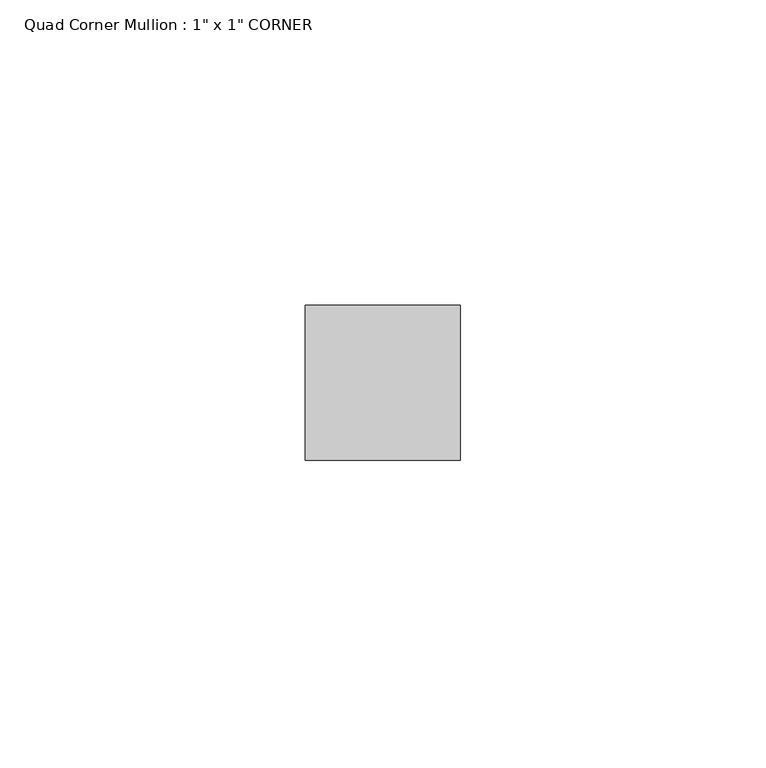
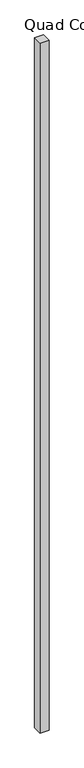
"""IFC4 building model written with IfcOpenShell, lengths in millimetres: member geometry."""

import ifcopenshell
import ifcopenshell.guid

model = None  # the IFC model being written
_history = None  # IfcOwnerHistory: only IFC2X3 demands one
_inside = {}  # id of a spatial element -> (the spatial element, [elements in it])
_under = {}  # id of a project, library or spatial element -> (it, [spatial elements below it])
_declared = {}  # id of a project -> (the project, [libraries it declares])
_typed = {}  # id of a type object -> (the type object, [elements of that type])
_made_of = {}  # id of a material, layer set ... -> (it, [elements and type objects made of it])


def new_model(schema):
    """Start an empty IFC model of exactly this schema.

    Asked for "IFC4X3", IfcOpenShell would pick the latest addendum, in which some entities
    have other attributes; the version numbers below select the first issue.
    IFC2X3 requires an IfcOwnerHistory on every rooted entity: one is made here for all.
    """
    global model, _history
    if schema == "IFC4X3":
        model = ifcopenshell.file(schema_version=(4, 3, 0, 0))
    else:
        model = ifcopenshell.file(schema=schema)
    _inside.clear()
    _under.clear()
    _declared.clear()
    _typed.clear()
    _made_of.clear()
    _history = None
    if model.schema == "IFC2X3":
        org = make("IfcOrganization", Name="unknown")
        user = make(
            "IfcPersonAndOrganization",
            ThePerson=make("IfcPerson", FamilyName="unknown"),
            TheOrganization=org,
        )
        app = make(
            "IfcApplication",
            ApplicationDeveloper=org,
            Version="unknown",
            ApplicationFullName="unknown",
            ApplicationIdentifier="unknown",
        )
        _history = make(
            "IfcOwnerHistory",
            OwningUser=user,
            OwningApplication=app,
            ChangeAction="ADDED",
            CreationDate=0,
        )
    return model


def make(cls, **values):
    """One entity of the class cls with the attributes given. An attribute that is None is left unset."""
    return model.create_entity(
        cls, **{name: value for name, value in values.items() if value is not None}
    )


def rooted(cls, **values):
    """An entity with a GlobalId (a new one), such as an element, a storey or a relation."""
    return make(cls, GlobalId=ifcopenshell.guid.new(), OwnerHistory=_history, **values)


def si_unit(unit_type, name, prefix=None):
    """IfcSIUnit, for example si_unit("LENGTHUNIT", "METRE", prefix="MILLI")."""
    return make("IfcSIUnit", UnitType=unit_type, Prefix=prefix, Name=name)


def assignment(units):
    """IfcUnitAssignment: the units of a project."""
    return None if units is None else make("IfcUnitAssignment", Units=units)


def point(xyz):
    """IfcCartesianPoint."""
    return None if xyz is None else make("IfcCartesianPoint", Coordinates=xyz)


def direction(xyz):
    """IfcDirection."""
    return None if xyz is None else make("IfcDirection", DirectionRatios=xyz)


def frame(location, z_axis=None, x_axis=None):
    """IfcAxis2Placement3D, a coordinate frame: its origin and axes. An axis left out is left unset."""
    return make(
        "IfcAxis2Placement3D",
        Location=point(location),
        Axis=direction(z_axis),
        RefDirection=direction(x_axis),
    )


def origin():
    """The frame at (0, 0, 0) with its axes left unset."""
    return frame((0.0, 0.0, 0.0))


def place(relative_to, where):
    """IfcLocalPlacement: puts the frame where relative to a parent placement (None: the world)."""
    return make(
        "IfcLocalPlacement", PlacementRelTo=relative_to, RelativePlacement=where
    )


def context(
    kind, dimensions, precision=None, world=None, true_north=None, identifier=None
):
    """IfcGeometricRepresentationContext, for example the 3D "Model" context."""
    return make(
        "IfcGeometricRepresentationContext",
        ContextIdentifier=identifier,
        ContextType=kind,
        CoordinateSpaceDimension=dimensions,
        Precision=precision,
        WorldCoordinateSystem=world,
        TrueNorth=true_north,
    )


def project(units=None, contexts=None):
    """IfcProject with its units and contexts."""
    return rooted(
        "IfcProject",
        Name="project",
        RepresentationContexts=contexts,
        UnitsInContext=assignment(units),
    )


def spatial(cls, under=None, at=None, **own):
    """A site, building, storey or space (cls), placed at a placement, below another one or the project."""
    s = rooted(cls, ObjectPlacement=at, **own)
    if under is not None:
        _under.setdefault(under.id(), (under, []))[1].append(s)
    return s


def polyline(points):
    """IfcPolyline through the points."""
    return make("IfcPolyline", Points=[point(p) for p in points])


def outline(outer, holes=None, kind="AREA"):
    """IfcArbitraryClosedProfileDef: a profile drawn as a closed curve; with holes, ...WithVoids."""
    if holes is None:
        return make("IfcArbitraryClosedProfileDef", ProfileType=kind, OuterCurve=outer)
    return make(
        "IfcArbitraryProfileDefWithVoids",
        ProfileType=kind,
        OuterCurve=outer,
        InnerCurves=holes,
    )


def extrude(swept, where, along, depth):
    """IfcExtrudedAreaSolid: the profile swept, set in the frame where, extruded along a direction by depth."""
    return make(
        "IfcExtrudedAreaSolid",
        SweptArea=swept,
        Position=where,
        ExtrudedDirection=direction(along),
        Depth=depth,
    )


def shape(context_of_items, identifier, shape_type, items):
    """IfcShapeRepresentation: the items that make up one representation, for example the "Body"."""
    return make(
        "IfcShapeRepresentation",
        ContextOfItems=context_of_items,
        RepresentationIdentifier=identifier,
        RepresentationType=shape_type,
        Items=items,
    )


def source(mapping_origin, context_of_items, identifier, shape_type, items):
    """IfcRepresentationMap: a shape defined once, which mapped items show again and again."""
    return make(
        "IfcRepresentationMap",
        MappingOrigin=mapping_origin,
        MappedRepresentation=shape(context_of_items, identifier, shape_type, items),
    )


def transform(
    local_origin,
    x_axis=None,
    y_axis=None,
    z_axis=None,
    scale=None,
    scale2=None,
    scale3=None,
    uniform=True,
):
    """IfcCartesianTransformationOperator3D, or its non-uniform kind. x_axis, y_axis, z_axis: its Axis1, 2, 3."""
    if uniform:
        return make(
            "IfcCartesianTransformationOperator3D",
            Axis1=direction(x_axis),
            Axis2=direction(y_axis),
            LocalOrigin=point(local_origin),
            Scale=scale,
            Axis3=direction(z_axis),
        )
    return make(
        "IfcCartesianTransformationOperator3DnonUniform",
        Axis1=direction(x_axis),
        Axis2=direction(y_axis),
        LocalOrigin=point(local_origin),
        Scale=scale,
        Axis3=direction(z_axis),
        Scale2=scale2,
        Scale3=scale3,
    )


def mapped(mapping_source, mapping_target):
    """IfcMappedItem: shows the shape of a source again, moved by a transform."""
    return make(
        "IfcMappedItem", MappingSource=mapping_source, MappingTarget=mapping_target
    )


def made_of(thing, what):
    """Note that an element or type object is made of a material, layer set ...; save() writes the relation."""
    if what is not None:
        _made_of.setdefault(what.id(), (what, []))[1].append(thing)
    return thing


def element(
    cls,
    number,
    at=None,
    inside=None,
    cuts=None,
    type_object=None,
    material=None,
    context=None,
    identifier="Body",
    shape_type=None,
    held_by="IfcProductDefinitionShape",
    body=None,
    shapes=None,
    **own,
):
    """One element of the class cls, such as IfcWall. Its Tag is "e" and its number.

    at: its placement. inside: the storey or other place that contains it. cuts: it is an
    opening in that element (IfcRelVoidsElement). A single representation is given by context,
    identifier, shape_type and body (its items); several are given by shapes. held_by: the class
    of the entity that holds the representations. save() writes the other relations.
    """
    e = rooted(cls, Tag="e%d" % number, ObjectPlacement=at, **own)
    if body is not None:
        shapes = [shape(context, identifier, shape_type, body)]
    if shapes is not None:
        e.Representation = make(held_by, Representations=shapes)
    if inside is not None:
        _inside.setdefault(inside.id(), (inside, []))[1].append(e)
    if cuts is not None:
        rooted(
            "IfcRelVoidsElement", RelatingBuildingElement=cuts, RelatedOpeningElement=e
        )
    if type_object is not None:
        _typed.setdefault(type_object.id(), (type_object, []))[1].append(e)
    return made_of(e, material)


def aggregate(whole, parts):
    """IfcRelAggregates: a whole, such as a stair, and the parts it consists of."""
    return rooted("IfcRelAggregates", RelatingObject=whole, RelatedObjects=parts)


def save(model, path):
    """Write the relations noted so far, then the file.

    IfcRelAggregates (storeys below a building ...), IfcRelContainedInSpatialStructure (elements
    in a storey), IfcRelDefinesByType, IfcRelAssociatesMaterial and IfcRelDeclares: one each for
    every whole, place, type object, material and project.
    """
    for whole, parts in _under.values():
        aggregate(whole, parts)
    for where, things in _inside.values():
        rooted(
            "IfcRelContainedInSpatialStructure",
            RelatedElements=things,
            RelatingStructure=where,
        )
    for kind, things in _typed.values():
        rooted("IfcRelDefinesByType", RelatedObjects=things, RelatingType=kind)
    for what, things in _made_of.values():
        rooted("IfcRelAssociatesMaterial", RelatedObjects=things, RelatingMaterial=what)
    for by, libraries in _declared.values():
        rooted("IfcRelDeclares", RelatingContext=by, RelatedDefinitions=libraries)
    model.write(path)


def member_de15c0d6(model_context):
    return source(origin(), model_context, "Body", "SweptSolid", [
        extrude(outline(polyline([(0.0, 25.4), (0.0, 0.0), (-25.4, 0.0), (-25.4, 25.4), (0.0, 25.4)])), frame((0.0, 0.0, -2057.4), z_axis=(0.0, 0.0, 1.0), x_axis=(1.0, 0.0, 0.0)), (0.0, 0.0, 1.0), 2057.4),
    ])


if __name__ == "__main__":
    model = new_model("IFC4")
    model_context = context("Model", 3, world=origin())
    ifc_project = project(units=[si_unit("LENGTHUNIT", "METRE", prefix="MILLI")], contexts=[model_context])
    site = spatial("IfcSite", under=ifc_project)
    building = spatial("IfcBuilding", under=site)
    placement = place(None, origin())
    member_shape = member_de15c0d6(model_context)
    element("IfcMember", 1, ObjectType="Quad Corner Mullion : 1\" x 1\" CORNER", at=placement, inside=building, context=model_context, shape_type="MappedRepresentation", body=[
        mapped(member_shape, transform((0.0, 0.0, 0.0), x_axis=(1.0, 0.0, 0.0), y_axis=(0.0, 1.0, 0.0), z_axis=(0.0, 0.0, 1.0))),
    ])
    save(model, "model.ifc")
